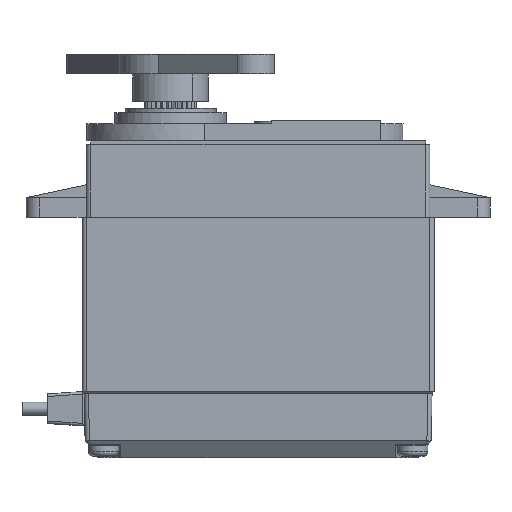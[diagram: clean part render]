
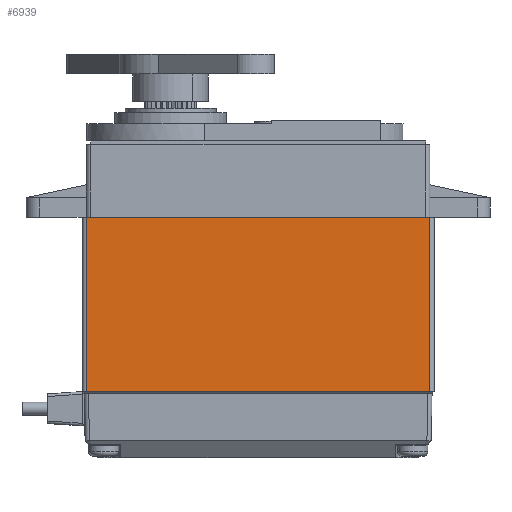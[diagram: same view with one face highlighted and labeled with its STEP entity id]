
A CAD part, front view. The second image highlights one B-rep face of the part: STEP entity #6939.
In plain terms, the highlighted planar face has unit normal (0, -1, 0).
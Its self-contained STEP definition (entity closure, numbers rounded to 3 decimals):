
#648 = CARTESIAN_POINT ( 'NONE',  ( 20., -10.25, 20.5 ) ) ;
#923 = ORIENTED_EDGE ( 'NONE', *, *, #9853, .F. ) ;
#1840 = FACE_OUTER_BOUND ( 'NONE', #2995, .T. ) ;
#2046 = ORIENTED_EDGE ( 'NONE', *, *, #10484, .T. ) ;
#2149 = VERTEX_POINT ( 'NONE', #3568 ) ;
#2498 = CARTESIAN_POINT ( 'NONE',  ( -20., -10.25, 20.5 ) ) ;
#2811 = DIRECTION ( 'NONE',  ( 0., 1., 0. ) ) ;
#2995 = EDGE_LOOP ( 'NONE', ( #4818, #6766, #2046, #923 ) ) ;
#3001 = VECTOR ( 'NONE', #8127, 1000. ) ;
#3568 = CARTESIAN_POINT ( 'NONE',  ( -20., -10.25, 20.5 ) ) ;
#3711 = CARTESIAN_POINT ( 'NONE',  ( 20., -10.25, 0.2 ) ) ;
#3729 = PLANE ( 'NONE',  #3910 ) ;
#3736 = VECTOR ( 'NONE', #5371, 1000. ) ;
#3910 = AXIS2_PLACEMENT_3D ( 'NONE', #5751, #2811, #8556 ) ;
#4043 = CARTESIAN_POINT ( 'NONE',  ( 20., -10.25, 20.5 ) ) ;
#4122 = CARTESIAN_POINT ( 'NONE',  ( -20.5, -10.25, 0.2 ) ) ;
#4567 = VERTEX_POINT ( 'NONE', #648 ) ;
#4727 = VERTEX_POINT ( 'NONE', #3711 ) ;
#4818 = ORIENTED_EDGE ( 'NONE', *, *, #5351, .T. ) ;
#5351 = EDGE_CURVE ( 'NONE', #2149, #7709, #12349, .T. ) ;
#5371 = DIRECTION ( 'NONE',  ( 0., 0., -1. ) ) ;
#5498 = VECTOR ( 'NONE', #7045, 1000. ) ;
#5751 = CARTESIAN_POINT ( 'NONE',  ( -20.5, -10.25, 20.5 ) ) ;
#6126 = LINE ( 'NONE', #4043, #5498 ) ;
#6403 = DIRECTION ( 'NONE',  ( 1., 0., 0. ) ) ;
#6616 = VECTOR ( 'NONE', #6403, 1000. ) ;
#6623 = CARTESIAN_POINT ( 'NONE',  ( -20., -10.25, 0.2 ) ) ;
#6766 = ORIENTED_EDGE ( 'NONE', *, *, #7977, .T. ) ;
#6939 = ADVANCED_FACE ( 'NONE', ( #1840 ), #3729, .F. ) ;
#7045 = DIRECTION ( 'NONE',  ( 0., 0., 1. ) ) ;
#7709 = VERTEX_POINT ( 'NONE', #6623 ) ;
#7977 = EDGE_CURVE ( 'NONE', #7709, #4727, #10201, .T. ) ;
#8127 = DIRECTION ( 'NONE',  ( 1., 0., 0. ) ) ;
#8556 = DIRECTION ( 'NONE',  ( -1., 0., 0. ) ) ;
#9853 = EDGE_CURVE ( 'NONE', #2149, #4567, #11144, .T. ) ;
#10103 = CARTESIAN_POINT ( 'NONE',  ( -20.5, -10.25, 20.5 ) ) ;
#10201 = LINE ( 'NONE', #4122, #6616 ) ;
#10484 = EDGE_CURVE ( 'NONE', #4727, #4567, #6126, .T. ) ;
#11144 = LINE ( 'NONE', #10103, #3001 ) ;
#12349 = LINE ( 'NONE', #2498, #3736 ) ;
